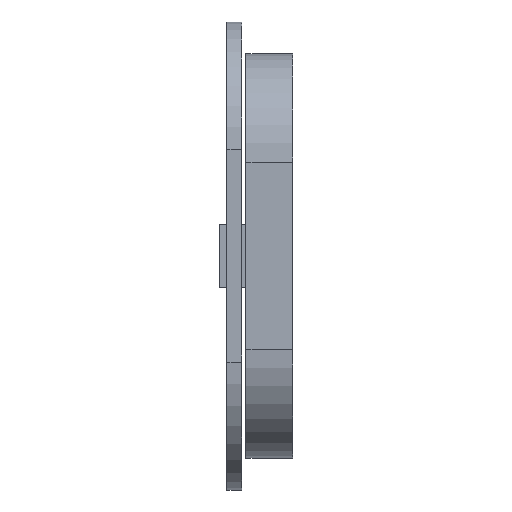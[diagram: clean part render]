
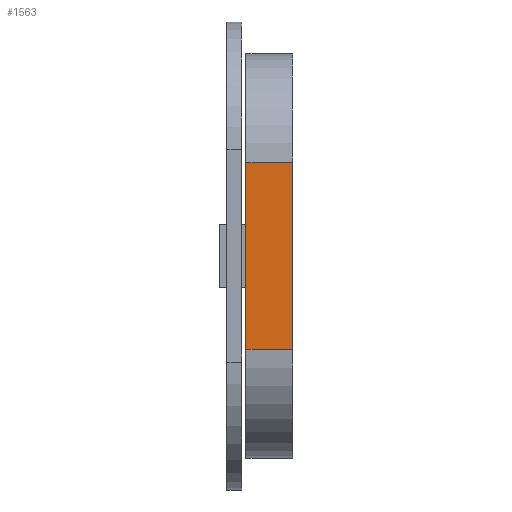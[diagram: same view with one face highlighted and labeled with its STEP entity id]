
A CAD part, top view. The second image highlights one B-rep face of the part: STEP entity #1563.
In plain terms, the highlighted planar face has unit normal (0, 0, 1).
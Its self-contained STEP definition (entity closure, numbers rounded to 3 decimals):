
#974 = PLANE('',#975);
#975 = AXIS2_PLACEMENT_3D('',#976,#977,#978);
#976 = CARTESIAN_POINT('',(40.9,-4.5,6.5));
#977 = DIRECTION('',(1.,0.,0.));
#978 = DIRECTION('',(0.,0.,-1.));
#1315 = EDGE_CURVE('',#1316,#1318,#1320,.T.);
#1316 = VERTEX_POINT('',#1317);
#1317 = CARTESIAN_POINT('',(40.9,0.6,6.5));
#1318 = VERTEX_POINT('',#1319);
#1319 = CARTESIAN_POINT('',(40.9,9.4,6.5));
#1320 = SURFACE_CURVE('',#1321,(#1325,#1332),.PCURVE_S1.);
#1321 = LINE('',#1322,#1323);
#1322 = CARTESIAN_POINT('',(40.9,-4.5,6.5));
#1323 = VECTOR('',#1324,1.);
#1324 = DIRECTION('',(0.,1.,0.));
#1325 = PCURVE('',#974,#1326);
#1326 = DEFINITIONAL_REPRESENTATION('',(#1327),#1331);
#1327 = LINE('',#1328,#1329);
#1328 = CARTESIAN_POINT('',(0.,0.));
#1329 = VECTOR('',#1330,1.);
#1330 = DIRECTION('',(0.,1.));
#1331 = ( GEOMETRIC_REPRESENTATION_CONTEXT(2) 
PARAMETRIC_REPRESENTATION_CONTEXT() REPRESENTATION_CONTEXT('2D SPACE',''
  ) );
#1332 = PCURVE('',#1333,#1338);
#1333 = PLANE('',#1334);
#1334 = AXIS2_PLACEMENT_3D('',#1335,#1336,#1337);
#1335 = CARTESIAN_POINT('',(40.9,-4.5,6.5));
#1336 = DIRECTION('',(0.,0.,-1.));
#1337 = DIRECTION('',(1.,0.,0.));
#1338 = DEFINITIONAL_REPRESENTATION('',(#1339),#1343);
#1339 = LINE('',#1340,#1341);
#1340 = CARTESIAN_POINT('',(0.,0.));
#1341 = VECTOR('',#1342,1.);
#1342 = DIRECTION('',(0.,-1.));
#1343 = ( GEOMETRIC_REPRESENTATION_CONTEXT(2) 
PARAMETRIC_REPRESENTATION_CONTEXT() REPRESENTATION_CONTEXT('2D SPACE',''
  ) );
#1362 = CYLINDRICAL_SURFACE('',#1363,5.1);
#1363 = AXIS2_PLACEMENT_3D('',#1364,#1365,#1366);
#1364 = CARTESIAN_POINT('',(40.9,0.6,1.4));
#1365 = DIRECTION('',(1.,0.,0.));
#1366 = DIRECTION('',(0.,0.,1.));
#1539 = CYLINDRICAL_SURFACE('',#1540,5.1);
#1540 = AXIS2_PLACEMENT_3D('',#1541,#1542,#1543);
#1541 = CARTESIAN_POINT('',(40.9,9.4,1.4));
#1542 = DIRECTION('',(1.,0.,0.));
#1543 = DIRECTION('',(0.,0.,1.));
#1563 = ADVANCED_FACE('',(#1564),#1333,.F.);
#1564 = FACE_BOUND('',#1565,.F.);
#1565 = EDGE_LOOP('',(#1566,#1596,#1617,#1618));
#1566 = ORIENTED_EDGE('',*,*,#1567,.T.);
#1567 = EDGE_CURVE('',#1568,#1570,#1572,.T.);
#1568 = VERTEX_POINT('',#1569);
#1569 = CARTESIAN_POINT('',(43.1,9.4,6.5));
#1570 = VERTEX_POINT('',#1571);
#1571 = CARTESIAN_POINT('',(43.1,0.6,6.5));
#1572 = SURFACE_CURVE('',#1573,(#1577,#1584),.PCURVE_S1.);
#1573 = LINE('',#1574,#1575);
#1574 = CARTESIAN_POINT('',(43.1,-24.75,6.5));
#1575 = VECTOR('',#1576,1.);
#1576 = DIRECTION('',(0.,-1.,0.));
#1577 = PCURVE('',#1333,#1578);
#1578 = DEFINITIONAL_REPRESENTATION('',(#1579),#1583);
#1579 = LINE('',#1580,#1581);
#1580 = CARTESIAN_POINT('',(2.2,20.25));
#1581 = VECTOR('',#1582,1.);
#1582 = DIRECTION('',(0.,1.));
#1583 = ( GEOMETRIC_REPRESENTATION_CONTEXT(2) 
PARAMETRIC_REPRESENTATION_CONTEXT() REPRESENTATION_CONTEXT('2D SPACE',''
  ) );
#1584 = PCURVE('',#1585,#1590);
#1585 = PLANE('',#1586);
#1586 = AXIS2_PLACEMENT_3D('',#1587,#1588,#1589);
#1587 = CARTESIAN_POINT('',(43.1,-45.,-25.));
#1588 = DIRECTION('',(1.,0.,0.));
#1589 = DIRECTION('',(0.,0.,1.));
#1590 = DEFINITIONAL_REPRESENTATION('',(#1591),#1595);
#1591 = LINE('',#1592,#1593);
#1592 = CARTESIAN_POINT('',(31.5,-20.25));
#1593 = VECTOR('',#1594,1.);
#1594 = DIRECTION('',(0.,1.));
#1595 = ( GEOMETRIC_REPRESENTATION_CONTEXT(2) 
PARAMETRIC_REPRESENTATION_CONTEXT() REPRESENTATION_CONTEXT('2D SPACE',''
  ) );
#1596 = ORIENTED_EDGE('',*,*,#1597,.F.);
#1597 = EDGE_CURVE('',#1316,#1570,#1598,.T.);
#1598 = SURFACE_CURVE('',#1599,(#1603,#1610),.PCURVE_S1.);
#1599 = LINE('',#1600,#1601);
#1600 = CARTESIAN_POINT('',(40.9,0.6,6.5));
#1601 = VECTOR('',#1602,1.);
#1602 = DIRECTION('',(1.,0.,0.));
#1603 = PCURVE('',#1333,#1604);
#1604 = DEFINITIONAL_REPRESENTATION('',(#1605),#1609);
#1605 = LINE('',#1606,#1607);
#1606 = CARTESIAN_POINT('',(0.,-5.1));
#1607 = VECTOR('',#1608,1.);
#1608 = DIRECTION('',(1.,0.));
#1609 = ( GEOMETRIC_REPRESENTATION_CONTEXT(2) 
PARAMETRIC_REPRESENTATION_CONTEXT() REPRESENTATION_CONTEXT('2D SPACE',''
  ) );
#1610 = PCURVE('',#1362,#1611);
#1611 = DEFINITIONAL_REPRESENTATION('',(#1612),#1616);
#1612 = LINE('',#1613,#1614);
#1613 = CARTESIAN_POINT('',(0.,0.));
#1614 = VECTOR('',#1615,1.);
#1615 = DIRECTION('',(0.,1.));
#1616 = ( GEOMETRIC_REPRESENTATION_CONTEXT(2) 
PARAMETRIC_REPRESENTATION_CONTEXT() REPRESENTATION_CONTEXT('2D SPACE',''
  ) );
#1617 = ORIENTED_EDGE('',*,*,#1315,.T.);
#1618 = ORIENTED_EDGE('',*,*,#1619,.T.);
#1619 = EDGE_CURVE('',#1318,#1568,#1620,.T.);
#1620 = SURFACE_CURVE('',#1621,(#1625,#1632),.PCURVE_S1.);
#1621 = LINE('',#1622,#1623);
#1622 = CARTESIAN_POINT('',(40.9,9.4,6.5));
#1623 = VECTOR('',#1624,1.);
#1624 = DIRECTION('',(1.,0.,0.));
#1625 = PCURVE('',#1333,#1626);
#1626 = DEFINITIONAL_REPRESENTATION('',(#1627),#1631);
#1627 = LINE('',#1628,#1629);
#1628 = CARTESIAN_POINT('',(0.,-13.9));
#1629 = VECTOR('',#1630,1.);
#1630 = DIRECTION('',(1.,0.));
#1631 = ( GEOMETRIC_REPRESENTATION_CONTEXT(2) 
PARAMETRIC_REPRESENTATION_CONTEXT() REPRESENTATION_CONTEXT('2D SPACE',''
  ) );
#1632 = PCURVE('',#1539,#1633);
#1633 = DEFINITIONAL_REPRESENTATION('',(#1634),#1638);
#1634 = LINE('',#1635,#1636);
#1635 = CARTESIAN_POINT('',(6.283,0.));
#1636 = VECTOR('',#1637,1.);
#1637 = DIRECTION('',(-0.,1.));
#1638 = ( GEOMETRIC_REPRESENTATION_CONTEXT(2) 
PARAMETRIC_REPRESENTATION_CONTEXT() REPRESENTATION_CONTEXT('2D SPACE',''
  ) );
